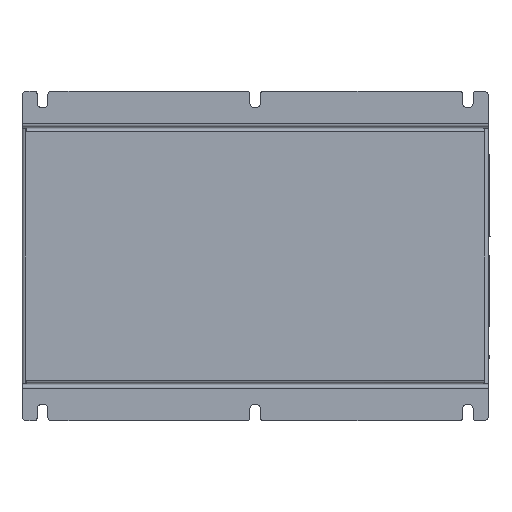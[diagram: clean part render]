
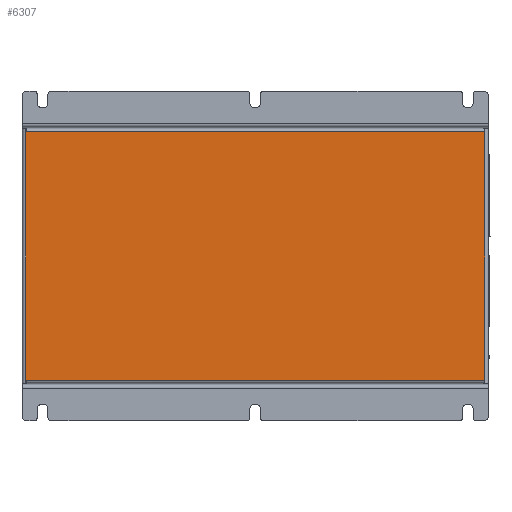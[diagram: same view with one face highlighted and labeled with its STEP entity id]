
A CAD part, front view. The second image highlights one B-rep face of the part: STEP entity #6307.
In plain terms, the highlighted planar face has unit normal (0, -1, 0).
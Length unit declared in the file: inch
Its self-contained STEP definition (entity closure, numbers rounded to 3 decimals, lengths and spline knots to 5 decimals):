
#266 = CARTESIAN_POINT ( 'NONE',  ( 4.75, -1.998, 2.6 ) ) ;
#6307 = ADVANCED_FACE ( 'NONE', ( #40028 ), #8172, .T. ) ;
#7561 = LINE ( 'NONE', #30300, #52210 ) ;
#8172 = PLANE ( 'NONE',  #17597 ) ;
#16082 = VERTEX_POINT ( 'NONE', #18122 ) ;
#17597 = AXIS2_PLACEMENT_3D ( 'NONE', #266, #32981, #41139 ) ;
#18122 = CARTESIAN_POINT ( 'NONE',  ( -4.67595, -1.998, -2.52595 ) ) ;
#18532 = VERTEX_POINT ( 'NONE', #21637 ) ;
#19303 = DIRECTION ( 'NONE',  ( -1., 0., 0. ) ) ;
#20156 = CARTESIAN_POINT ( 'NONE',  ( 4.67595, -1.998, 2.52595 ) ) ;
#21637 = CARTESIAN_POINT ( 'NONE',  ( 4.67595, -1.998, -2.52595 ) ) ;
#23362 = CARTESIAN_POINT ( 'NONE',  ( 4.67595, -1.998, 2.52595 ) ) ;
#25870 = LINE ( 'NONE', #23362, #34841 ) ;
#30300 = CARTESIAN_POINT ( 'NONE',  ( -4.67595, -1.998, -2.52595 ) ) ;
#32981 = DIRECTION ( 'NONE',  ( 0., -1., 0. ) ) ;
#33466 = CARTESIAN_POINT ( 'NONE',  ( -4.67595, -1.998, 2.52595 ) ) ;
#33762 = DIRECTION ( 'NONE',  ( 0., 0., -1. ) ) ;
#33849 = LINE ( 'NONE', #41747, #41469 ) ;
#34841 = VECTOR ( 'NONE', #19303, 39.37008 ) ;
#35641 = EDGE_CURVE ( 'NONE', #40936, #46910, #25870, .T. ) ;
#36157 = VECTOR ( 'NONE', #41868, 39.37008 ) ;
#37791 = CARTESIAN_POINT ( 'NONE',  ( 4.67595, -1.998, 2.6 ) ) ;
#40028 = FACE_OUTER_BOUND ( 'NONE', #44924, .T. ) ;
#40936 = VERTEX_POINT ( 'NONE', #20156 ) ;
#41139 = DIRECTION ( 'NONE',  ( 0., 0., 1. ) ) ;
#41469 = VECTOR ( 'NONE', #33762, 39.37008 ) ;
#41707 = ORIENTED_EDGE ( 'NONE', *, *, #35641, .T. ) ;
#41747 = CARTESIAN_POINT ( 'NONE',  ( -4.67595, -1.998, 2.6 ) ) ;
#41868 = DIRECTION ( 'NONE',  ( 0., 0., -1. ) ) ;
#43853 = EDGE_CURVE ( 'NONE', #40936, #18532, #49535, .T. ) ;
#44924 = EDGE_LOOP ( 'NONE', ( #49954, #50748, #48544, #41707 ) ) ;
#46910 = VERTEX_POINT ( 'NONE', #33466 ) ;
#48544 = ORIENTED_EDGE ( 'NONE', *, *, #43853, .F. ) ;
#49535 = LINE ( 'NONE', #37791, #36157 ) ;
#49954 = ORIENTED_EDGE ( 'NONE', *, *, #50049, .T. ) ;
#50049 = EDGE_CURVE ( 'NONE', #46910, #16082, #33849, .T. ) ;
#50738 = EDGE_CURVE ( 'NONE', #16082, #18532, #7561, .T. ) ;
#50748 = ORIENTED_EDGE ( 'NONE', *, *, #50738, .T. ) ;
#51121 = DIRECTION ( 'NONE',  ( 1., 0., 0. ) ) ;
#52210 = VECTOR ( 'NONE', #51121, 39.37008 ) ;
